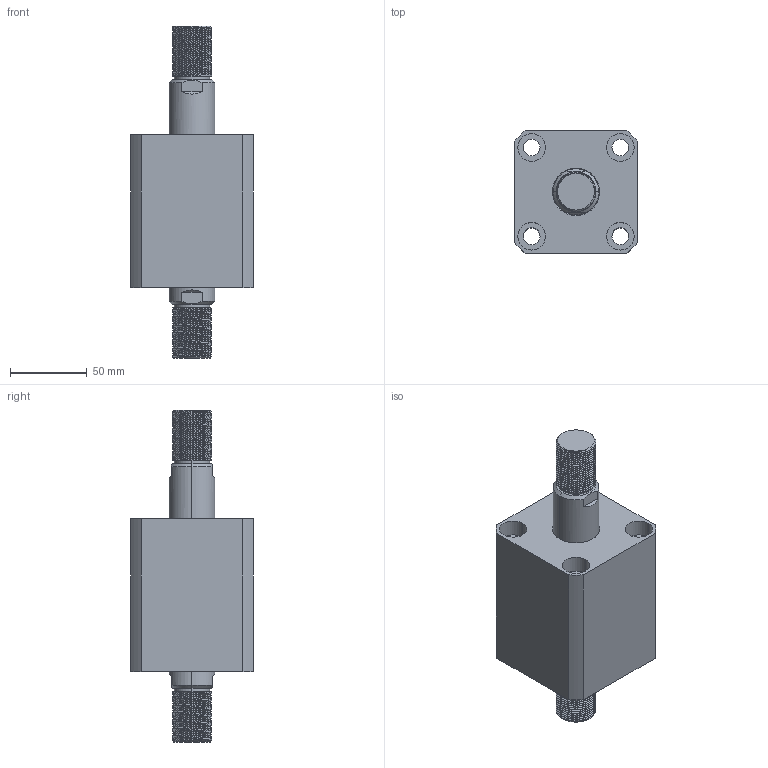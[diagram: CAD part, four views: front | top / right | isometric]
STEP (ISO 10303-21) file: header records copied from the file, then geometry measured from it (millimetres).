
FILE_DESCRIPTION (( 'STEP AP203' ), '1' );
FILE_NAME ('CHTB-SW50-25W.STEP', '2018-05-21T05:42:48', ( '' ), ( '' ), 'SwSTEP 2.0', 'SolidWorks 2015', '' );
FILE_SCHEMA (( 'CONFIG_CONTROL_DESIGN' ));
Length unit declared in the file: millimetre
Products named in the file (4): CHTB-SW50-25W; 活塞杆SW50-25W; ヶ裔; 掛极SW50-25W
Assembly tree (3 placements, depth 2):
  CHTB-SW50-25W
    掛极SW50-25W
    活塞杆SW50-25W
    ヶ裔
Bounding box: 80 x 80 x 217 mm (x, y, z)
Volume: 606619.7 mm3; surface area: 117826.5 mm2
Topology: 3 solids, 3 shells, 314 faces, 795 edges, 514 vertices
Faces by surface type: cylinder 202, plane 51, cone 29, torus 24, bspline 8
Entity records: 17397 total; most frequent: CARTESIAN_POINT 10064, ORIENTED_EDGE 1582, DIRECTION 1360, EDGE_CURVE 791, AXIS2_PLACEMENT_3D 550, VERTEX_POINT 514, EDGE_LOOP 361, FACE_OUTER_BOUND 314
